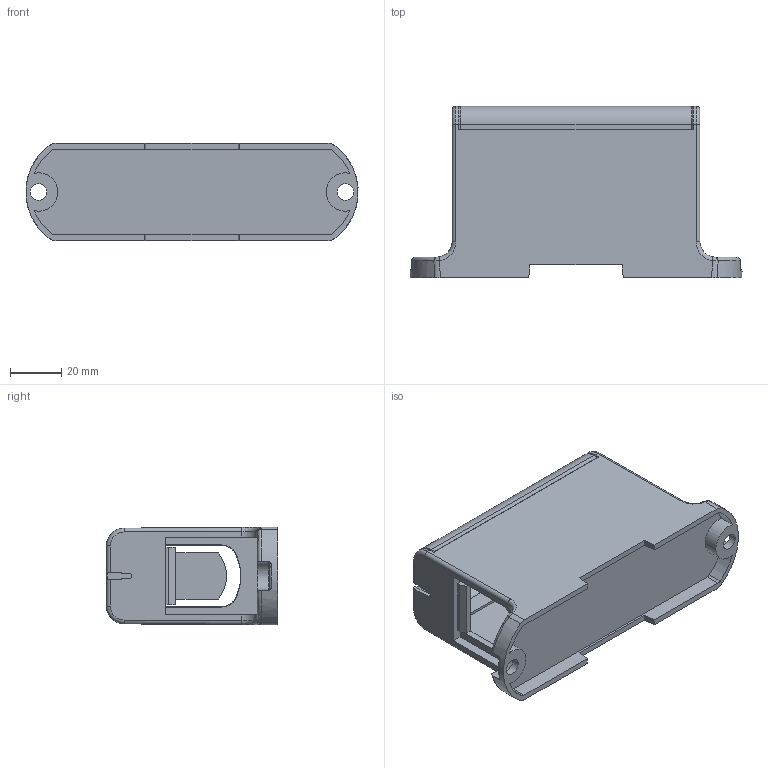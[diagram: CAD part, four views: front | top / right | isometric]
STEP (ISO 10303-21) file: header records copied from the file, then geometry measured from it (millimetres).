
FILE_DESCRIPTION((''),'2;1');
FILE_NAME('ASM000-KE64_ASM','2016-05-30T',('Administrator'),(''),'PRO/ENGINEER BY PARAMETRIC TECHNOLOGY CORPORATION, 2009360','PRO/ENGINEER BY PARAMETRIC TECHNOLOGY CORPORATION, 2009360','');
FILE_SCHEMA(('CONFIG_CONTROL_DESIGN'));
Length unit declared in the file: millimetre
Products named in the file (3): KE64-ZUO; KE64-GAI; ASM000-KE64_ASM
Assembly tree (2 placements, depth 2):
  ASM000-KE64_ASM
    KE64-ZUO
    KE64-GAI
Bounding box: 129.88 x 67 x 38.21 mm (x, y, z)
Volume: 53352.8 mm3; surface area: 54229.7 mm2
Topology: 2 solids, 2 shells, 234 faces, 648 edges, 414 vertices
Faces by surface type: plane 123, cylinder 65, torus 20, bspline 20, cone 6
Entity records: 8202 total; most frequent: CARTESIAN_POINT 2191, ORIENTED_EDGE 1296, DIRECTION 1190, EDGE_CURVE 648, VECTOR 416, LINE 416, VERTEX_POINT 414, AXIS2_PLACEMENT_3D 387
